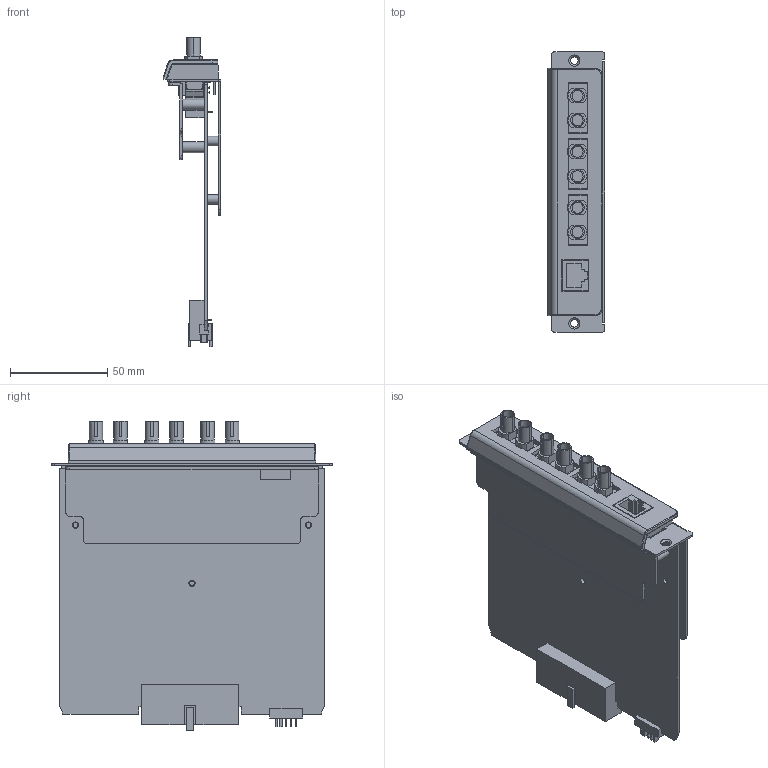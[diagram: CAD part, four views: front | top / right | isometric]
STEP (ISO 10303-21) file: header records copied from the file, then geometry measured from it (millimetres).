
FILE_DESCRIPTION((''),'2;1');
FILE_NAME('CM-600-3MST1TX','2014-05-13T',('Sam_Liu'),(''),'PRO/ENGINEER BY PARAMETRIC TECHNOLOGY CORPORATION, 2013230','PRO/ENGINEER BY PARAMETRIC TECHNOLOGY CORPORATION, 2013230','');
FILE_SCHEMA(('CONFIG_CONTROL_DESIGN'));
Length unit declared in the file: millimetre
Products named in the file (1): CM-600-3MST1TX
Bounding box: 29.7 x 144.4 x 159.45 mm (x, y, z)
Volume: 96245.7 mm3; surface area: 97877.6 mm2
Topology: 3 solids, 7 shells, 941 faces, 2448 edges, 1598 vertices
Faces by surface type: plane 608, cylinder 301, cone 12, sphere 8, torus 8, bspline 4
Entity records: 28989 total; most frequent: CARTESIAN_POINT 5275, DIRECTION 4915, ORIENTED_EDGE 4880, EDGE_CURVE 2440, VECTOR 1743, LINE 1743, VERTEX_POINT 1598, AXIS2_PLACEMENT_3D 1586
